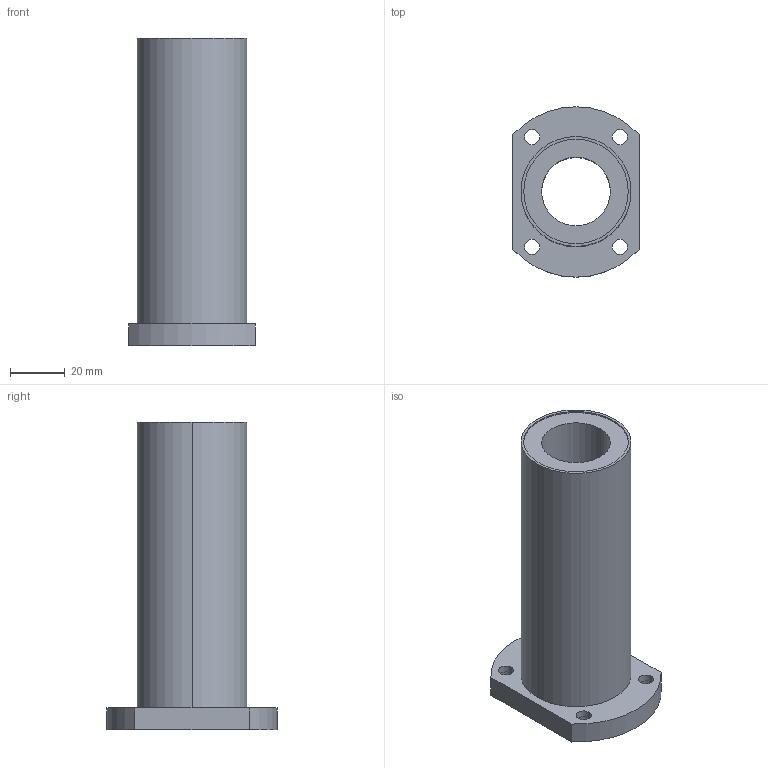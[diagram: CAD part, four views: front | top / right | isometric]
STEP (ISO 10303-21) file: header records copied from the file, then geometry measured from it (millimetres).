
FILE_DESCRIPTION((''),'2;1');
FILE_NAME('C:\Documents and Settings\ｿﾀﾀ蠑ｷ1\ｹﾙﾅﾁ ﾈｭｸ饅\ｺﾎﾇｰﾆﾄﾀﾏ\ﾁｦﾇｰ\LMH__LUU\LMH25LUU.stp','2005-06-15T10:47:47',('ｿﾀﾀ蠑ｷ1'),(''),'Autodesk Inventor 9','Autodesk Inventor 9','');
FILE_SCHEMA(('AUTOMOTIVE_DESIGN { 1 0 10303 214 1 1 1 1 }'));
Length unit declared in the file: millimetre
Products named in the file (1): LMH__
Bounding box: 46 x 62 x 112 mm (x, y, z)
Volume: 93410.5 mm3; surface area: 28202.4 mm2
Topology: 1 solids, 1 shells, 40 faces, 90 edges, 60 vertices
Faces by surface type: cylinder 28, plane 12
Entity records: 1193 total; most frequent: DIRECTION 228, CARTESIAN_POINT 191, ORIENTED_EDGE 180, AXIS2_PLACEMENT_3D 97, EDGE_CURVE 90, VERTEX_POINT 60, EDGE_LOOP 58, CIRCLE 56
